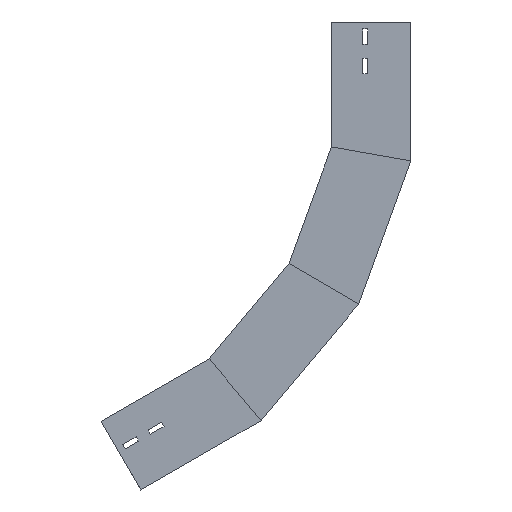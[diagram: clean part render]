
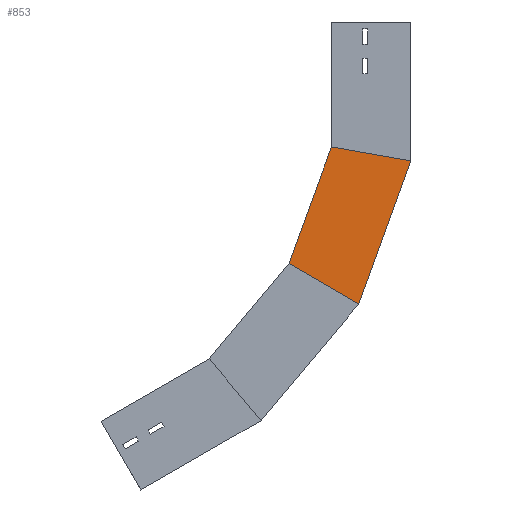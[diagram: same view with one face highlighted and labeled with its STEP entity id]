
A CAD part, left-side view. The second image highlights one B-rep face of the part: STEP entity #853.
In plain terms, the highlighted planar face has unit normal (-1, 0, 0) as drawn and (1, 0, 0) by its records, which use the part's own axes.
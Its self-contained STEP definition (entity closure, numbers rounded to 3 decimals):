
#10 = CARTESIAN_POINT ( 'NONE',  ( 0., 285.655, -476.677 ) ) ;
#63 = FACE_OUTER_BOUND ( 'NONE', #977, .T. ) ;
#102 = VECTOR ( 'NONE', #975, 1000. ) ;
#125 = LINE ( 'NONE', #529, #232 ) ;
#129 = EDGE_CURVE ( 'NONE', #333, #986, #392, .T. ) ;
#194 = CARTESIAN_POINT ( 'NONE',  ( 0., 236.28, -535.52 ) ) ;
#232 = VECTOR ( 'NONE', #1050, 1000. ) ;
#333 = VERTEX_POINT ( 'NONE', #482 ) ;
#345 = EDGE_CURVE ( 'NONE', #333, #780, #864, .T. ) ;
#356 = EDGE_CURVE ( 'NONE', #986, #1668, #1100, .T. ) ;
#367 = VECTOR ( 'NONE', #602, 1000. ) ;
#392 = LINE ( 'NONE', #927, #1423 ) ;
#482 = CARTESIAN_POINT ( 'NONE',  ( 0., 172.636, -341.986 ) ) ;
#510 = DIRECTION ( 'NONE',  ( 0., 0.643, -0.766 ) ) ;
#529 = CARTESIAN_POINT ( 'NONE',  ( 0., 73.705, -399.104 ) ) ;
#531 = ORIENTED_EDGE ( 'NONE', *, *, #1307, .T. ) ;
#575 = CARTESIAN_POINT ( 'NONE',  ( 0., 106.113, -380.393 ) ) ;
#602 = DIRECTION ( 'NONE',  ( 0., -0.866, -0.5 ) ) ;
#729 = CARTESIAN_POINT ( 'NONE',  ( 0., 212.226, -564.186 ) ) ;
#780 = VERTEX_POINT ( 'NONE', #1099 ) ;
#834 = PLANE ( 'NONE',  #1455 ) ;
#853 = ADVANCED_FACE ( 'NONE', ( #63 ), #834, .F. ) ;
#854 = CARTESIAN_POINT ( 'NONE',  ( 0., 73.705, -399.104 ) ) ;
#864 = LINE ( 'NONE', #575, #367 ) ;
#927 = CARTESIAN_POINT ( 'NONE',  ( 0., 159.885, -326.79 ) ) ;
#960 = ORIENTED_EDGE ( 'NONE', *, *, #129, .F. ) ;
#975 = DIRECTION ( 'NONE',  ( 0., -0.643, -0.766 ) ) ;
#977 = EDGE_LOOP ( 'NONE', ( #960, #1346, #531, #1630 ) ) ;
#986 = VERTEX_POINT ( 'NONE', #10 ) ;
#1050 = DIRECTION ( 'NONE',  ( 0., 0.643, -0.766 ) ) ;
#1099 = CARTESIAN_POINT ( 'NONE',  ( 0., 73.705, -399.104 ) ) ;
#1100 = LINE ( 'NONE', #194, #102 ) ;
#1232 = DIRECTION ( 'NONE',  ( -1., 0., 0. ) ) ;
#1251 = DIRECTION ( 'NONE',  ( 0., 0., 1. ) ) ;
#1307 = EDGE_CURVE ( 'NONE', #780, #1668, #125, .T. ) ;
#1346 = ORIENTED_EDGE ( 'NONE', *, *, #345, .T. ) ;
#1423 = VECTOR ( 'NONE', #510, 1000. ) ;
#1455 = AXIS2_PLACEMENT_3D ( 'NONE', #854, #1232, #1251 ) ;
#1630 = ORIENTED_EDGE ( 'NONE', *, *, #356, .F. ) ;
#1668 = VERTEX_POINT ( 'NONE', #729 ) ;
